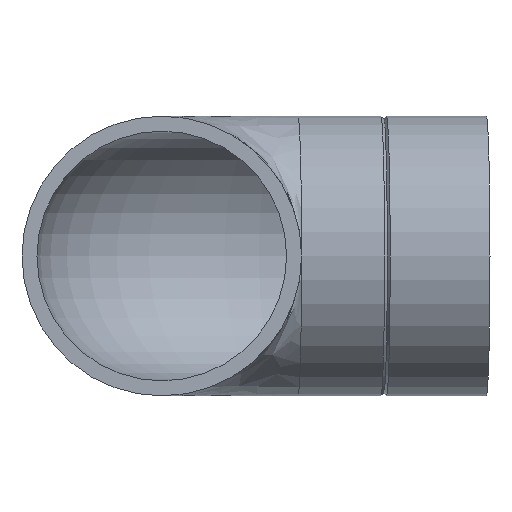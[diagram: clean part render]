
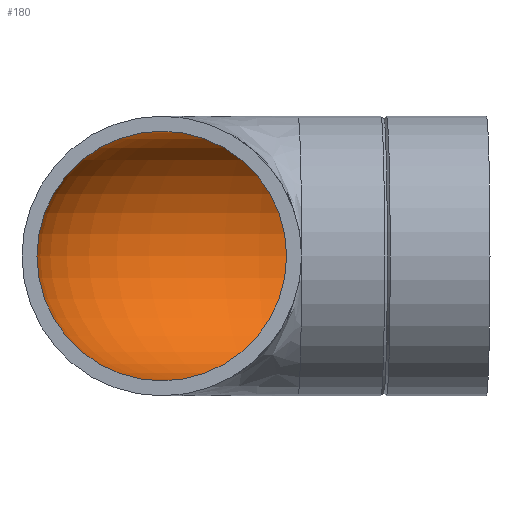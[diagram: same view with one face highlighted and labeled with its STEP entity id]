
A CAD part, front view. The second image highlights one B-rep face of the part: STEP entity #180.
In plain terms, the highlighted toroidal (fillet/blend) face has major radius 28 mm and minor radius 25 mm.
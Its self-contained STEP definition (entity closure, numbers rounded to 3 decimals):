
#14=TOROIDAL_SURFACE($,#211,28.,25.);
#34=FACE_BOUND($,#76,.T.);
#53=FACE_OUTER_BOUND($,#75,.T.);
#75=EDGE_LOOP($,(#152));
#76=EDGE_LOOP($,(#153));
#97=CIRCLE($,#208,25.);
#99=CIRCLE($,#212,25.);
#113=VERTEX_POINT($,#354);
#114=VERTEX_POINT($,#359);
#128=EDGE_CURVE($,#113,#113,#97,.T.);
#130=EDGE_CURVE($,#114,#114,#99,.T.);
#152=ORIENTED_EDGE($,*,*,#130,.T.);
#153=ORIENTED_EDGE($,*,*,#128,.F.);
#180=ADVANCED_FACE($,(#53,#34),#14,.F.);
#208=AXIS2_PLACEMENT_3D($,#355,#259,#260);
#211=AXIS2_PLACEMENT_3D($,#358,#265,#266);
#212=AXIS2_PLACEMENT_3D($,#360,#267,#268);
#259=DIRECTION('center_axis',(-1.,-0.026,0.));
#260=DIRECTION('ref_axis',(0.026,-1.,0.));
#265=DIRECTION('center_axis',(0.,0.,-1.));
#266=DIRECTION('ref_axis',(-1.,0.,0.));
#267=DIRECTION('center_axis',(0.,-1.,0.));
#268=DIRECTION('ref_axis',(1.,0.,0.));
#354=CARTESIAN_POINT('',(26.613,89.991,0.));
#355=CARTESIAN_POINT('Origin',(27.267,65.,0.));
#358=CARTESIAN_POINT('Origin',(28.,37.01,0.));
#359=CARTESIAN_POINT('',(-25.,37.01,0.));
#360=CARTESIAN_POINT('Origin',(0.,37.01,0.));
